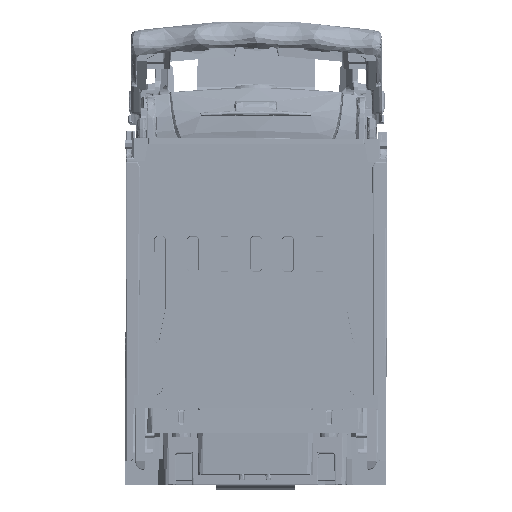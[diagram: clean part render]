
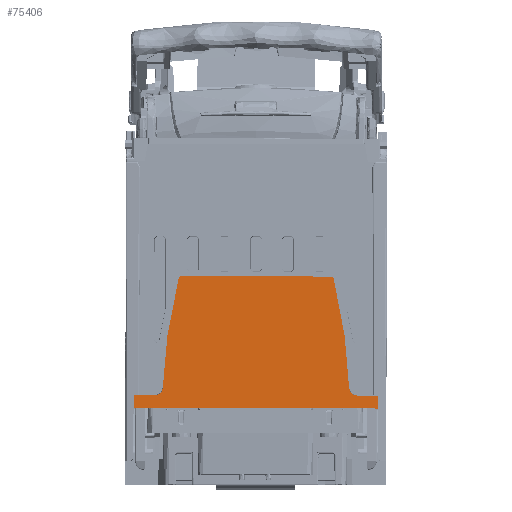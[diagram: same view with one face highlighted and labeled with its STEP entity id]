
A CAD part, left-side view. The second image highlights one B-rep face of the part: STEP entity #75406.
In plain terms, the highlighted planar face has unit normal (-1, 0, 0).
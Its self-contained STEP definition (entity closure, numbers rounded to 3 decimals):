
#61968=CIRCLE('',#315622,3.);
#61969=CIRCLE('',#315624,3.);
#61970=CIRCLE('',#315627,0.5);
#61971=CIRCLE('',#315629,0.5);
#75406=ADVANCED_FACE('',(#96558),#89585,.F.);
#89585=PLANE('',#316741);
#96558=FACE_OUTER_BOUND('',#112001,.T.);
#112001=EDGE_LOOP('',(#141210,#141211,#141212,#141213,#141214,#141215,#141216,
#141217,#141218,#141219,#141220,#141221,#141222,#141223));
#141210=ORIENTED_EDGE('',*,*,#239797,.T.);
#141211=ORIENTED_EDGE('',*,*,#239808,.F.);
#141212=ORIENTED_EDGE('',*,*,#239799,.T.);
#141213=ORIENTED_EDGE('',*,*,#239807,.F.);
#141214=ORIENTED_EDGE('',*,*,#239802,.T.);
#141215=ORIENTED_EDGE('',*,*,#239806,.F.);
#141216=ORIENTED_EDGE('',*,*,#239809,.T.);
#141217=ORIENTED_EDGE('',*,*,#239792,.F.);
#141218=ORIENTED_EDGE('',*,*,#239810,.T.);
#141219=ORIENTED_EDGE('',*,*,#239724,.T.);
#141220=ORIENTED_EDGE('',*,*,#236808,.F.);
#141221=ORIENTED_EDGE('',*,*,#239821,.F.);
#141222=ORIENTED_EDGE('',*,*,#239879,.T.);
#141223=ORIENTED_EDGE('',*,*,#239795,.F.);
#211518=VERTEX_POINT('',#396044);
#211519=VERTEX_POINT('',#396046);
#213719=VERTEX_POINT('',#410565);
#213734=VERTEX_POINT('',#411500);
#213735=VERTEX_POINT('',#411502);
#213736=VERTEX_POINT('',#411506);
#213737=VERTEX_POINT('',#411508);
#213738=VERTEX_POINT('',#411512);
#213739=VERTEX_POINT('',#411516);
#213740=VERTEX_POINT('',#411517);
#213741=VERTEX_POINT('',#411522);
#213742=VERTEX_POINT('',#411523);
#213743=VERTEX_POINT('',#411528);
#213746=VERTEX_POINT('',#411613);
#236808=EDGE_CURVE('',#211518,#211519,#276804,.T.);
#239724=EDGE_CURVE('',#213719,#211519,#278110,.T.);
#239792=EDGE_CURVE('',#213734,#213735,#61968,.T.);
#239795=EDGE_CURVE('',#213736,#213737,#61969,.T.);
#239797=EDGE_CURVE('',#213736,#213738,#278158,.T.);
#239799=EDGE_CURVE('',#213739,#213740,#61970,.T.);
#239802=EDGE_CURVE('',#213741,#213742,#61971,.T.);
#239806=EDGE_CURVE('',#213743,#213742,#278165,.T.);
#239807=EDGE_CURVE('',#213741,#213740,#278166,.T.);
#239808=EDGE_CURVE('',#213739,#213738,#278167,.T.);
#239809=EDGE_CURVE('',#213743,#213735,#278168,.T.);
#239810=EDGE_CURVE('',#213734,#213719,#278169,.T.);
#239821=EDGE_CURVE('',#213746,#211518,#278177,.T.);
#239879=EDGE_CURVE('',#213746,#213737,#278212,.T.);
#276804=LINE('',#396045,#295783);
#278110=LINE('',#410564,#297089);
#278158=LINE('',#411511,#297137);
#278165=LINE('',#411529,#297144);
#278166=LINE('',#411531,#297145);
#278167=LINE('',#411533,#297146);
#278168=LINE('',#411535,#297147);
#278169=LINE('',#411537,#297148);
#278177=LINE('',#411614,#297156);
#278212=LINE('',#412751,#297191);
#295783=VECTOR('',#334497,1.);
#297089=VECTOR('',#338703,1.);
#297137=VECTOR('',#338849,1.);
#297144=VECTOR('',#338866,1.);
#297145=VECTOR('',#338869,1.);
#297146=VECTOR('',#338872,1.);
#297147=VECTOR('',#338875,1.);
#297148=VECTOR('',#338878,1.);
#297156=VECTOR('',#338898,1.);
#297191=VECTOR('',#339019,1.);
#315622=AXIS2_PLACEMENT_3D('',#411501,#338838,#338839);
#315624=AXIS2_PLACEMENT_3D('',#411507,#338844,#338845);
#315627=AXIS2_PLACEMENT_3D('',#411515,#338853,#338854);
#315629=AXIS2_PLACEMENT_3D('',#411521,#338859,#338860);
#316741=AXIS2_PLACEMENT_3D('',#425774,#342146,#342147);
#334497=DIRECTION('',(0.,1.,0.002));
#338703=DIRECTION('',(0.,0.006,-1.));
#338838=DIRECTION('',(-1.,0.,0.));
#338839=DIRECTION('',(0.,1.,0.002));
#338844=DIRECTION('',(-1.,0.,0.));
#338845=DIRECTION('',(0.,1.,0.002));
#338849=DIRECTION('',(0.,0.085,0.996));
#338853=DIRECTION('',(-1.,0.,0.));
#338854=DIRECTION('',(0.,1.,0.002));
#338859=DIRECTION('',(-1.,0.,0.));
#338860=DIRECTION('',(0.,1.,0.002));
#338866=DIRECTION('',(0.,-0.193,0.981));
#338869=DIRECTION('',(0.,-1.,-0.002));
#338872=DIRECTION('',(0.,-0.189,-0.982));
#338875=DIRECTION('',(0.,0.089,-0.996));
#338878=DIRECTION('',(0.,1.,0.002));
#338898=DIRECTION('',(0.,-0.003,-1.));
#339019=DIRECTION('',(0.,1.,0.002));
#342146=DIRECTION('',(1.,0.,0.));
#342147=DIRECTION('',(0.,-1.,-0.002));
#396044=CARTESIAN_POINT('',(-277.559,-46.679,29.156));
#396045=CARTESIAN_POINT('',(-277.56,-0.254,29.237));
#396046=CARTESIAN_POINT('',(-277.561,46.161,29.318));
#410564=CARTESIAN_POINT('',(-277.561,45.58,124.343));
#410565=CARTESIAN_POINT('',(-277.561,46.131,34.218));
#411500=CARTESIAN_POINT('',(-277.561,38.075,34.204));
#411501=CARTESIAN_POINT('',(-277.561,38.07,37.204));
#411502=CARTESIAN_POINT('',(-277.561,35.082,36.937));
#411506=CARTESIAN_POINT('',(-277.559,-35.616,36.814));
#411507=CARTESIAN_POINT('',(-277.559,-38.605,37.07));
#411508=CARTESIAN_POINT('',(-277.559,-38.6,34.07));
#411511=CARTESIAN_POINT('',(-277.559,-35.833,34.288));
#411512=CARTESIAN_POINT('',(-277.559,-33.912,56.688));
#411515=CARTESIAN_POINT('',(-277.56,-29.163,78.706));
#411516=CARTESIAN_POINT('',(-277.56,-29.654,78.801));
#411517=CARTESIAN_POINT('',(-277.56,-29.164,79.206));
#411521=CARTESIAN_POINT('',(-277.561,28.483,78.807));
#411522=CARTESIAN_POINT('',(-277.561,28.482,79.307));
#411523=CARTESIAN_POINT('',(-277.561,28.973,78.903));
#411528=CARTESIAN_POINT('',(-277.561,33.309,56.805));
#411529=CARTESIAN_POINT('',(-277.561,33.309,56.805));
#411531=CARTESIAN_POINT('',(-277.56,-0.341,79.257));
#411533=CARTESIAN_POINT('',(-277.559,-33.912,56.688));
#411535=CARTESIAN_POINT('',(-277.561,35.307,34.412));
#411537=CARTESIAN_POINT('',(-277.561,45.738,34.217));
#411613=CARTESIAN_POINT('',(-277.559,-46.666,34.056));
#411614=CARTESIAN_POINT('',(-277.559,-46.424,126.591));
#412751=CARTESIAN_POINT('',(-277.559,-46.262,34.057));
#425774=CARTESIAN_POINT('',(-277.56,-0.254,29.237));
